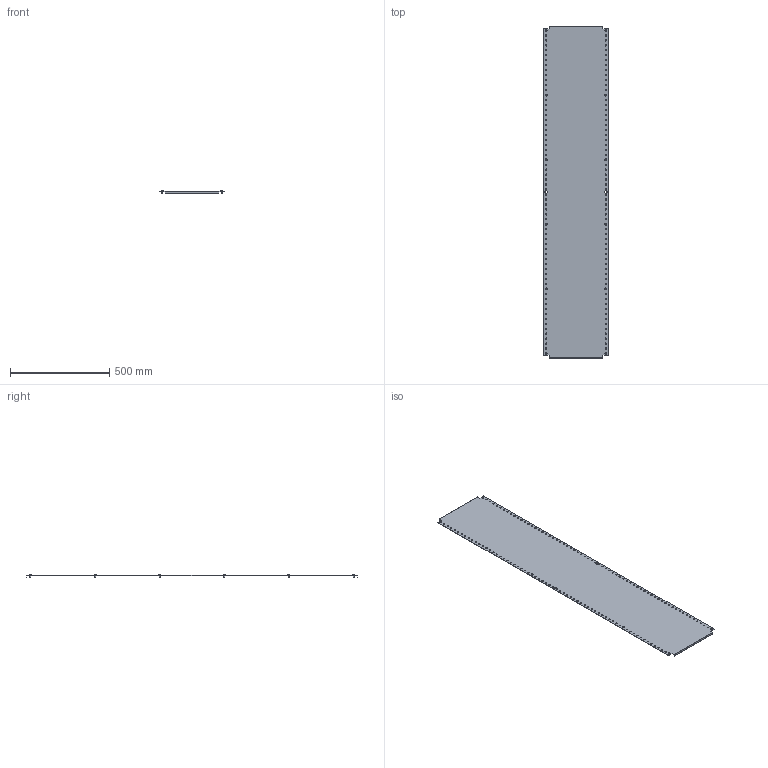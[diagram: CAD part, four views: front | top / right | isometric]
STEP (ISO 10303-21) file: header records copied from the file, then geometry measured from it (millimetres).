
FILE_DESCRIPTION (( 'STEP AP203' ), '1' );
FILE_NAME ('R6MP1840.STEP', '2025-03-28T12:10:25', ( '' ), ( '' ), 'SwSTEP 2.0', 'SolidWorks 2022', '' );
FILE_SCHEMA (( 'CONFIG_CONTROL_DESIGN' ));
Length unit declared in the file: millimetre
Products named in the file (3): R6MP1840; M5x12 DIN 7500 C Torx Zinc_stright; RB.3293.00.00.0_-20
Assembly tree (13 placements, depth 2):
  R6MP1840
    RB.3293.00.00.0_-20
    M5x12 DIN 7500 C Torx Zinc_stright  x12
Bounding box: 325 x 1670 x 15.56 mm (x, y, z)
Volume: 978744.9 mm3; surface area: 1099184.3 mm2
Topology: 13 solids, 13 shells, 358 faces, 852 edges, 532 vertices
Faces by surface type: cylinder 160, plane 126, torus 24, cone 24, sphere 12, bspline 12
Full cylindrical faces by diameter (mm): 5 x12, 6.5 x132, 9.5 x12
Entity records: 6757 total; most frequent: CARTESIAN_POINT 1124, DIRECTION 1052, ORIENTED_EDGE 760, EDGE_LOOP 590, AXIS2_PLACEMENT_3D 482, EDGE_CURVE 380, VERTEX_POINT 342, FACE_OUTER_BOUND 320
